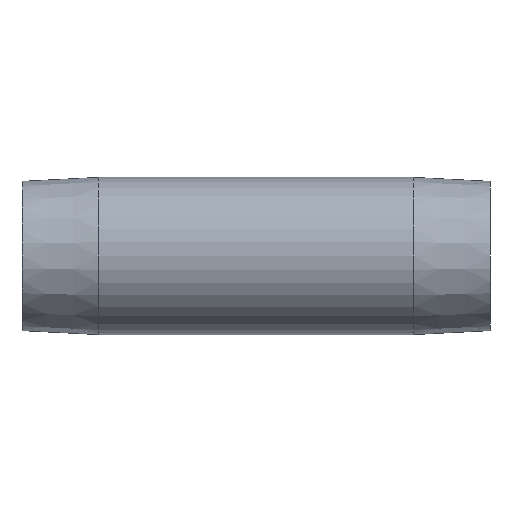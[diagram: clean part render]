
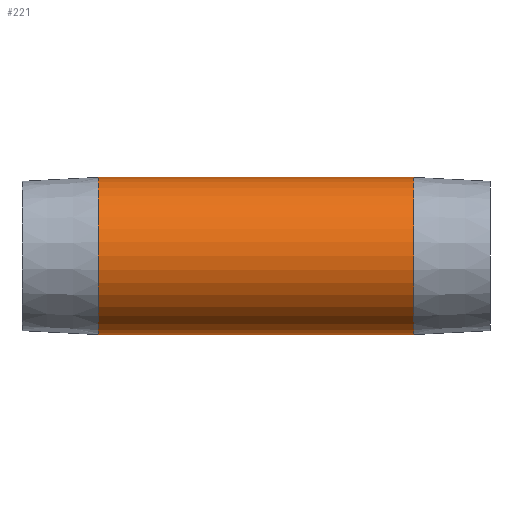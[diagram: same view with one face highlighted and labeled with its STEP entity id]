
A CAD part, front view. The second image highlights one B-rep face of the part: STEP entity #221.
In plain terms, the highlighted cylindrical face has radius 10.668 mm (diameter 21.336 mm), a partial arc.
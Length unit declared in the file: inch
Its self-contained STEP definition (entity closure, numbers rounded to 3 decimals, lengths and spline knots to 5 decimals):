
#2 = CARTESIAN_POINT ( 'NONE',  ( 2.094, 0., 0.42 ) ) ;
#10 = DIRECTION ( 'NONE',  ( -1., 0., 0. ) ) ;
#13 = EDGE_LOOP ( 'NONE', ( #332, #243, #91, #203 ) ) ;
#17 = CYLINDRICAL_SURFACE ( 'NONE', #184, 0.42 ) ;
#29 = CARTESIAN_POINT ( 'NONE',  ( 0.406, 0., 0.42 ) ) ;
#42 = AXIS2_PLACEMENT_3D ( 'NONE', #340, #10, #87 ) ;
#50 = LINE ( 'NONE', #294, #260 ) ;
#56 = CARTESIAN_POINT ( 'NONE',  ( 0.406, 0., -0.42 ) ) ;
#61 = VERTEX_POINT ( 'NONE', #2 ) ;
#75 = LINE ( 'NONE', #98, #297 ) ;
#87 = DIRECTION ( 'NONE',  ( 0., 0., 1. ) ) ;
#91 = ORIENTED_EDGE ( 'NONE', *, *, #240, .T. ) ;
#98 = CARTESIAN_POINT ( 'NONE',  ( 0., 0., 0.42 ) ) ;
#108 = AXIS2_PLACEMENT_3D ( 'NONE', #316, #232, #315 ) ;
#119 = FACE_OUTER_BOUND ( 'NONE', #13, .T. ) ;
#125 = DIRECTION ( 'NONE',  ( -1., 0., 0. ) ) ;
#131 = VERTEX_POINT ( 'NONE', #331 ) ;
#133 = VERTEX_POINT ( 'NONE', #56 ) ;
#152 = EDGE_CURVE ( 'NONE', #131, #61, #326, .T. ) ;
#183 = CARTESIAN_POINT ( 'NONE',  ( 0., 0., 0. ) ) ;
#184 = AXIS2_PLACEMENT_3D ( 'NONE', #183, #125, #264 ) ;
#192 = EDGE_CURVE ( 'NONE', #133, #328, #283, .T. ) ;
#203 = ORIENTED_EDGE ( 'NONE', *, *, #192, .F. ) ;
#221 = ADVANCED_FACE ( 'NONE', ( #119 ), #17, .T. ) ;
#228 = EDGE_CURVE ( 'NONE', #131, #133, #50, .T. ) ;
#232 = DIRECTION ( 'NONE',  ( -1., 0., 0. ) ) ;
#240 = EDGE_CURVE ( 'NONE', #61, #328, #75, .T. ) ;
#243 = ORIENTED_EDGE ( 'NONE', *, *, #152, .T. ) ;
#260 = VECTOR ( 'NONE', #298, 39.37008 ) ;
#264 = DIRECTION ( 'NONE',  ( 0., 0., 1. ) ) ;
#283 = CIRCLE ( 'NONE', #108, 0.42 ) ;
#294 = CARTESIAN_POINT ( 'NONE',  ( 0., 0., -0.42 ) ) ;
#297 = VECTOR ( 'NONE', #301, 39.37008 ) ;
#298 = DIRECTION ( 'NONE',  ( -1., 0., 0. ) ) ;
#301 = DIRECTION ( 'NONE',  ( -1., 0., 0. ) ) ;
#315 = DIRECTION ( 'NONE',  ( 0., 0., 1. ) ) ;
#316 = CARTESIAN_POINT ( 'NONE',  ( 0.406, 0., 0. ) ) ;
#326 = CIRCLE ( 'NONE', #42, 0.42 ) ;
#328 = VERTEX_POINT ( 'NONE', #29 ) ;
#331 = CARTESIAN_POINT ( 'NONE',  ( 2.094, 0., -0.42 ) ) ;
#332 = ORIENTED_EDGE ( 'NONE', *, *, #228, .F. ) ;
#340 = CARTESIAN_POINT ( 'NONE',  ( 2.094, 0., 0. ) ) ;
